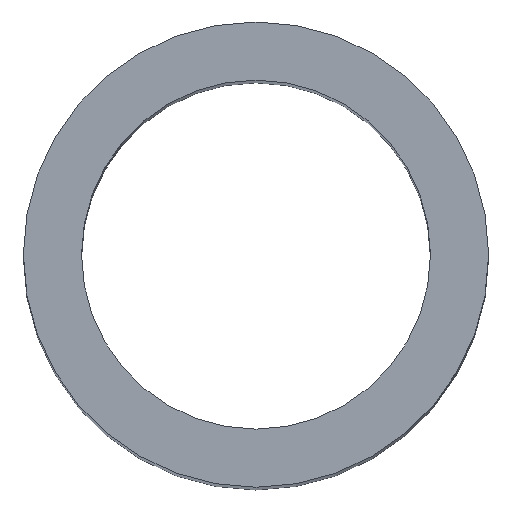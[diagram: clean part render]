
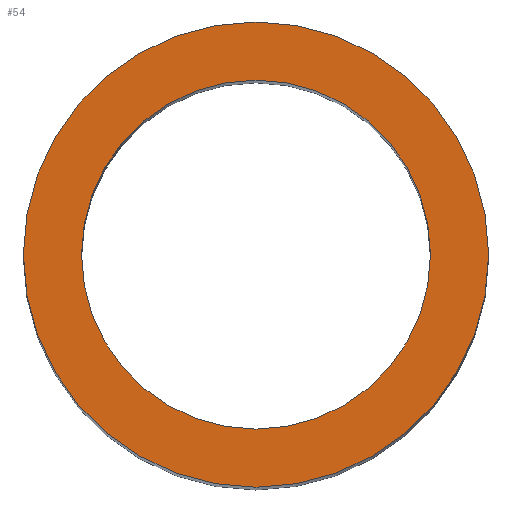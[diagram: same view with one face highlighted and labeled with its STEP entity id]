
A CAD part, top view. The second image highlights one B-rep face of the part: STEP entity #54.
In plain terms, the highlighted planar face has unit normal (0, 0, 1).
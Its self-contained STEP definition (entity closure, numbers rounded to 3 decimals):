
#5 = EDGE_LOOP ( 'NONE', ( #66, #209 ) ) ;
#10 = CARTESIAN_POINT ( 'NONE',  ( -6., 0., 54. ) ) ;
#15 = DIRECTION ( 'NONE',  ( 0., 0., 1. ) ) ;
#21 = EDGE_CURVE ( 'NONE', #103, #30, #65, .T. ) ;
#22 = FACE_OUTER_BOUND ( 'NONE', #5, .T. ) ;
#27 = CARTESIAN_POINT ( 'NONE',  ( 6., 0., 54. ) ) ;
#30 = VERTEX_POINT ( 'NONE', #84 ) ;
#33 = AXIS2_PLACEMENT_3D ( 'NONE', #208, #131, #60 ) ;
#34 = VERTEX_POINT ( 'NONE', #10 ) ;
#51 = DIRECTION ( 'NONE',  ( 1., 0., 0. ) ) ;
#54 = ADVANCED_FACE ( 'NONE', ( #22, #68 ), #83, .T. ) ;
#59 = DIRECTION ( 'NONE',  ( 0., 0., 1. ) ) ;
#60 = DIRECTION ( 'NONE',  ( 1., 0., 0. ) ) ;
#63 = EDGE_LOOP ( 'NONE', ( #142, #100 ) ) ;
#65 = CIRCLE ( 'NONE', #33, 8. ) ;
#66 = ORIENTED_EDGE ( 'NONE', *, *, #21, .T. ) ;
#68 = FACE_BOUND ( 'NONE', #63, .T. ) ;
#71 = EDGE_CURVE ( 'NONE', #34, #195, #107, .T. ) ;
#80 = DIRECTION ( 'NONE',  ( 1., 0., 0. ) ) ;
#83 = PLANE ( 'NONE',  #148 ) ;
#84 = CARTESIAN_POINT ( 'NONE',  ( 8., 0., 54. ) ) ;
#100 = ORIENTED_EDGE ( 'NONE', *, *, #199, .F. ) ;
#102 = DIRECTION ( 'NONE',  ( 1., 0., 0. ) ) ;
#103 = VERTEX_POINT ( 'NONE', #156 ) ;
#107 = CIRCLE ( 'NONE', #166, 6. ) ;
#110 = AXIS2_PLACEMENT_3D ( 'NONE', #176, #15, #102 ) ;
#117 = CARTESIAN_POINT ( 'NONE',  ( 0., 0., 54. ) ) ;
#122 = CARTESIAN_POINT ( 'NONE',  ( 0., 0., 54. ) ) ;
#130 = AXIS2_PLACEMENT_3D ( 'NONE', #117, #170, #80 ) ;
#131 = DIRECTION ( 'NONE',  ( 0., 0., 1. ) ) ;
#139 = DIRECTION ( 'NONE',  ( 1., 0., 0. ) ) ;
#142 = ORIENTED_EDGE ( 'NONE', *, *, #71, .F. ) ;
#148 = AXIS2_PLACEMENT_3D ( 'NONE', #150, #190, #51 ) ;
#150 = CARTESIAN_POINT ( 'NONE',  ( 0., 0., 54. ) ) ;
#151 = CIRCLE ( 'NONE', #110, 8. ) ;
#156 = CARTESIAN_POINT ( 'NONE',  ( -8., 0., 54. ) ) ;
#166 = AXIS2_PLACEMENT_3D ( 'NONE', #122, #59, #139 ) ;
#170 = DIRECTION ( 'NONE',  ( 0., 0., 1. ) ) ;
#176 = CARTESIAN_POINT ( 'NONE',  ( 0., 0., 54. ) ) ;
#183 = CIRCLE ( 'NONE', #130, 6. ) ;
#190 = DIRECTION ( 'NONE',  ( 0., 0., 1. ) ) ;
#195 = VERTEX_POINT ( 'NONE', #27 ) ;
#199 = EDGE_CURVE ( 'NONE', #195, #34, #183, .T. ) ;
#203 = EDGE_CURVE ( 'NONE', #30, #103, #151, .T. ) ;
#208 = CARTESIAN_POINT ( 'NONE',  ( 0., 0., 54. ) ) ;
#209 = ORIENTED_EDGE ( 'NONE', *, *, #203, .T. ) ;
